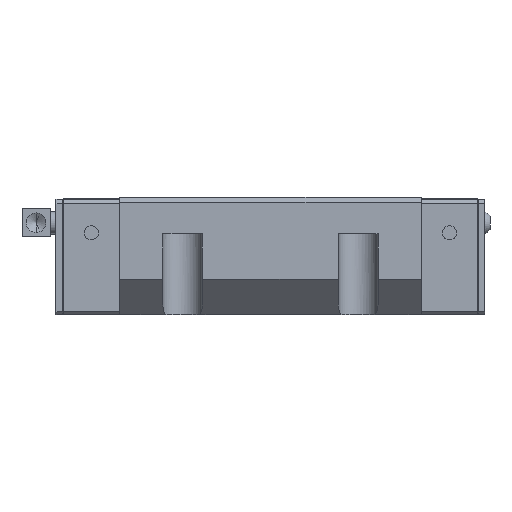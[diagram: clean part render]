
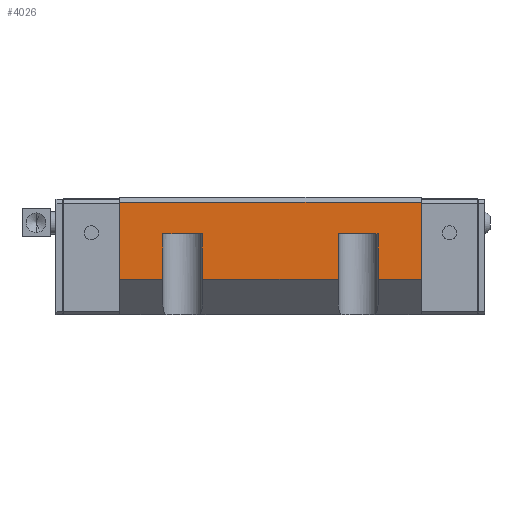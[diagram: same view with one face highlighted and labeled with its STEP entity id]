
A CAD part, top view. The second image highlights one B-rep face of the part: STEP entity #4026.
In plain terms, the highlighted planar face has unit normal (0, 0, 1).
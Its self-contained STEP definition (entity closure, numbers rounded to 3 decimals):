
#151 = CARTESIAN_POINT ( 'NONE',  ( 38., -11.28, 50. ) ) ;
#207 = VECTOR ( 'NONE', #7445, 1000. ) ;
#281 = LINE ( 'NONE', #6422, #352 ) ;
#310 = CARTESIAN_POINT ( 'NONE',  ( -38., 4.8, 50. ) ) ;
#352 = VECTOR ( 'NONE', #5688, 1000. ) ;
#366 = ORIENTED_EDGE ( 'NONE', *, *, #3829, .F. ) ;
#442 = VERTEX_POINT ( 'NONE', #1115 ) ;
#453 = LINE ( 'NONE', #1720, #5637 ) ;
#554 = LINE ( 'NONE', #5091, #971 ) ;
#613 = EDGE_CURVE ( 'NONE', #7982, #5325, #8559, .T. ) ;
#621 = DIRECTION ( 'NONE',  ( 0., -1., 0. ) ) ;
#971 = VECTOR ( 'NONE', #5870, 1000. ) ;
#1044 = CARTESIAN_POINT ( 'NONE',  ( -38., 4.8, 50. ) ) ;
#1090 = EDGE_CURVE ( 'NONE', #4664, #7982, #2194, .T. ) ;
#1113 = LINE ( 'NONE', #2422, #2253 ) ;
#1115 = CARTESIAN_POINT ( 'NONE',  ( 53.25, 16., 50. ) ) ;
#1387 = ORIENTED_EDGE ( 'NONE', *, *, #7520, .F. ) ;
#1594 = VECTOR ( 'NONE', #4689, 1000. ) ;
#1624 = LINE ( 'NONE', #3539, #5920 ) ;
#1720 = CARTESIAN_POINT ( 'NONE',  ( 53.25, -11.28, 50. ) ) ;
#1754 = CARTESIAN_POINT ( 'NONE',  ( -24., 4.8, 50. ) ) ;
#1887 = DIRECTION ( 'NONE',  ( 1., 0., 0. ) ) ;
#1896 = PLANE ( 'NONE',  #7209 ) ;
#1997 = VECTOR ( 'NONE', #3943, 1000. ) ;
#2056 = VECTOR ( 'NONE', #2413, 1000. ) ;
#2062 = VECTOR ( 'NONE', #1887, 1000. ) ;
#2194 = LINE ( 'NONE', #4794, #207 ) ;
#2220 = ORIENTED_EDGE ( 'NONE', *, *, #7101, .F. ) ;
#2253 = VECTOR ( 'NONE', #5859, 1000. ) ;
#2255 = CARTESIAN_POINT ( 'NONE',  ( 53.25, -11.28, 50. ) ) ;
#2289 = VERTEX_POINT ( 'NONE', #3237 ) ;
#2313 = VERTEX_POINT ( 'NONE', #6636 ) ;
#2401 = EDGE_CURVE ( 'NONE', #5325, #5356, #1624, .T. ) ;
#2413 = DIRECTION ( 'NONE',  ( 1., 0., 0. ) ) ;
#2414 = ORIENTED_EDGE ( 'NONE', *, *, #2401, .F. ) ;
#2422 = CARTESIAN_POINT ( 'NONE',  ( 53.25, -11.28, 50. ) ) ;
#2493 = CARTESIAN_POINT ( 'NONE',  ( 24., 4.8, 50. ) ) ;
#2589 = CARTESIAN_POINT ( 'NONE',  ( 53.25, -11.28, 50. ) ) ;
#2628 = FACE_OUTER_BOUND ( 'NONE', #6303, .T. ) ;
#2866 = ORIENTED_EDGE ( 'NONE', *, *, #7679, .T. ) ;
#2940 = VERTEX_POINT ( 'NONE', #6559 ) ;
#3135 = EDGE_CURVE ( 'NONE', #2940, #6981, #7422, .T. ) ;
#3237 = CARTESIAN_POINT ( 'NONE',  ( 24., -11.28, 50. ) ) ;
#3296 = CARTESIAN_POINT ( 'NONE',  ( -24., 4.8, 50. ) ) ;
#3478 = VECTOR ( 'NONE', #6844, 1000. ) ;
#3539 = CARTESIAN_POINT ( 'NONE',  ( -53.25, -2.116, 50. ) ) ;
#3612 = CARTESIAN_POINT ( 'NONE',  ( -38., -11.28, 50. ) ) ;
#3758 = VERTEX_POINT ( 'NONE', #4375 ) ;
#3797 = EDGE_CURVE ( 'NONE', #5388, #442, #281, .T. ) ;
#3829 = EDGE_CURVE ( 'NONE', #5388, #6981, #453, .T. ) ;
#3939 = CARTESIAN_POINT ( 'NONE',  ( -53.25, 16.3, 50. ) ) ;
#3943 = DIRECTION ( 'NONE',  ( -1., 0., 0. ) ) ;
#4026 = ADVANCED_FACE ( 'NONE', ( #2628 ), #1896, .T. ) ;
#4233 = DIRECTION ( 'NONE',  ( 0., 1., 0. ) ) ;
#4375 = CARTESIAN_POINT ( 'NONE',  ( -24., -11.28, 50. ) ) ;
#4384 = EDGE_CURVE ( 'NONE', #2313, #2940, #6541, .T. ) ;
#4412 = LINE ( 'NONE', #7071, #2056 ) ;
#4532 = ORIENTED_EDGE ( 'NONE', *, *, #1090, .F. ) ;
#4619 = ORIENTED_EDGE ( 'NONE', *, *, #8501, .F. ) ;
#4664 = VERTEX_POINT ( 'NONE', #1044 ) ;
#4689 = DIRECTION ( 'NONE',  ( 0., -1., 0. ) ) ;
#4732 = CARTESIAN_POINT ( 'NONE',  ( 38., 4.8, 50. ) ) ;
#4794 = CARTESIAN_POINT ( 'NONE',  ( -38., 4.8, 50. ) ) ;
#4991 = CARTESIAN_POINT ( 'NONE',  ( -53.25, 16., 50. ) ) ;
#5091 = CARTESIAN_POINT ( 'NONE',  ( 24., 4.8, 50. ) ) ;
#5121 = DIRECTION ( 'NONE',  ( 0., 0., 1. ) ) ;
#5325 = VERTEX_POINT ( 'NONE', #5645 ) ;
#5356 = VERTEX_POINT ( 'NONE', #4991 ) ;
#5388 = VERTEX_POINT ( 'NONE', #2255 ) ;
#5637 = VECTOR ( 'NONE', #6383, 1000. ) ;
#5645 = CARTESIAN_POINT ( 'NONE',  ( -53.25, -11.28, 50. ) ) ;
#5688 = DIRECTION ( 'NONE',  ( 0., 1., 0. ) ) ;
#5845 = VECTOR ( 'NONE', #6194, 1000. ) ;
#5859 = DIRECTION ( 'NONE',  ( -1., 0., 0. ) ) ;
#5870 = DIRECTION ( 'NONE',  ( 0., -1., 0. ) ) ;
#5920 = VECTOR ( 'NONE', #4233, 1000. ) ;
#6194 = DIRECTION ( 'NONE',  ( 1., 0., 0. ) ) ;
#6279 = LINE ( 'NONE', #310, #5845 ) ;
#6303 = EDGE_LOOP ( 'NONE', ( #2220, #2414, #8105, #4532, #8221, #2866, #4619, #1387, #8101, #7622, #366, #8576 ) ) ;
#6383 = DIRECTION ( 'NONE',  ( -1., 0., 0. ) ) ;
#6422 = CARTESIAN_POINT ( 'NONE',  ( 53.25, -2.116, 50. ) ) ;
#6541 = LINE ( 'NONE', #2493, #2062 ) ;
#6559 = CARTESIAN_POINT ( 'NONE',  ( 38., 4.8, 50. ) ) ;
#6636 = CARTESIAN_POINT ( 'NONE',  ( 24., 4.8, 50. ) ) ;
#6844 = DIRECTION ( 'NONE',  ( 0., -1., 0. ) ) ;
#6981 = VERTEX_POINT ( 'NONE', #151 ) ;
#7071 = CARTESIAN_POINT ( 'NONE',  ( -53.25, 16., 50. ) ) ;
#7101 = EDGE_CURVE ( 'NONE', #5356, #442, #4412, .T. ) ;
#7209 = AXIS2_PLACEMENT_3D ( 'NONE', #3939, #5121, #621 ) ;
#7422 = LINE ( 'NONE', #4732, #1594 ) ;
#7445 = DIRECTION ( 'NONE',  ( 0., -1., 0. ) ) ;
#7520 = EDGE_CURVE ( 'NONE', #2313, #2289, #554, .T. ) ;
#7588 = EDGE_CURVE ( 'NONE', #4664, #8244, #6279, .T. ) ;
#7622 = ORIENTED_EDGE ( 'NONE', *, *, #3135, .T. ) ;
#7679 = EDGE_CURVE ( 'NONE', #8244, #3758, #7704, .T. ) ;
#7704 = LINE ( 'NONE', #1754, #3478 ) ;
#7982 = VERTEX_POINT ( 'NONE', #3612 ) ;
#8101 = ORIENTED_EDGE ( 'NONE', *, *, #4384, .T. ) ;
#8105 = ORIENTED_EDGE ( 'NONE', *, *, #613, .F. ) ;
#8221 = ORIENTED_EDGE ( 'NONE', *, *, #7588, .T. ) ;
#8244 = VERTEX_POINT ( 'NONE', #3296 ) ;
#8501 = EDGE_CURVE ( 'NONE', #2289, #3758, #1113, .T. ) ;
#8559 = LINE ( 'NONE', #2589, #1997 ) ;
#8576 = ORIENTED_EDGE ( 'NONE', *, *, #3797, .T. ) ;
